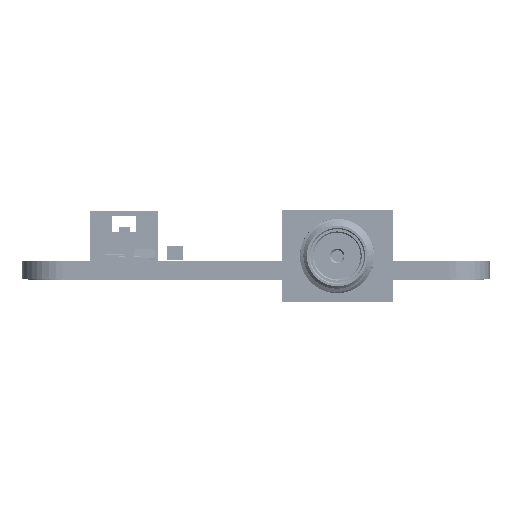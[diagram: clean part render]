
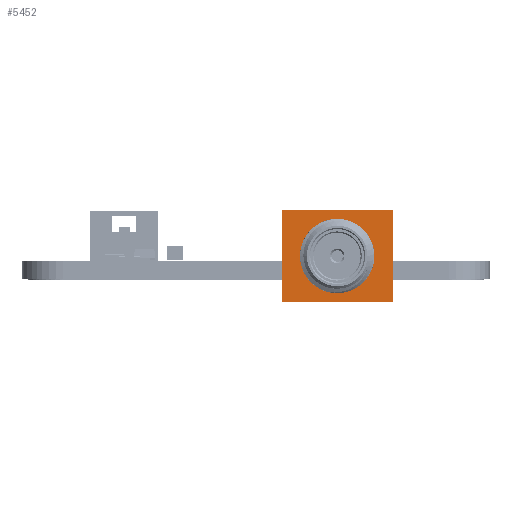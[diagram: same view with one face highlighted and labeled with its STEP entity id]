
A CAD part, left-side view. The second image highlights one B-rep face of the part: STEP entity #5452.
In plain terms, the highlighted planar face has unit normal (-1, 0, 0) as drawn and (1, 0, 0) by its records, which use the part's own axes.
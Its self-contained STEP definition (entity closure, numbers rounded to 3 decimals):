
#5228 = VERTEX_POINT('',#5229);
#5229 = CARTESIAN_POINT('',(4.19,-4.76,-3.58));
#5235 = EDGE_CURVE('',#5236,#5228,#5238,.T.);
#5236 = VERTEX_POINT('',#5237);
#5237 = CARTESIAN_POINT('',(4.19,-4.76,4.34));
#5238 = LINE('',#5239,#5240);
#5239 = CARTESIAN_POINT('',(4.19,-4.76,4.34));
#5240 = VECTOR('',#5241,1.);
#5241 = DIRECTION('',(0.,0.,-1.));
#5376 = EDGE_CURVE('',#5228,#5377,#5379,.T.);
#5377 = VERTEX_POINT('',#5378);
#5378 = CARTESIAN_POINT('',(4.19,4.76,-3.58));
#5379 = LINE('',#5380,#5381);
#5380 = CARTESIAN_POINT('',(4.19,-4.76,-3.58));
#5381 = VECTOR('',#5382,1.);
#5382 = DIRECTION('',(0.,1.,0.));
#5452 = ADVANCED_FACE('',(#5453,#5471),#5482,.T.);
#5453 = FACE_BOUND('',#5454,.T.);
#5454 = EDGE_LOOP('',(#5455,#5463,#5464,#5465));
#5455 = ORIENTED_EDGE('',*,*,#5456,.T.);
#5456 = EDGE_CURVE('',#5457,#5236,#5459,.T.);
#5457 = VERTEX_POINT('',#5458);
#5458 = CARTESIAN_POINT('',(4.19,4.76,4.34));
#5459 = LINE('',#5460,#5461);
#5460 = CARTESIAN_POINT('',(4.19,4.76,4.34));
#5461 = VECTOR('',#5462,1.);
#5462 = DIRECTION('',(0.,-1.,0.));
#5463 = ORIENTED_EDGE('',*,*,#5235,.T.);
#5464 = ORIENTED_EDGE('',*,*,#5376,.T.);
#5465 = ORIENTED_EDGE('',*,*,#5466,.T.);
#5466 = EDGE_CURVE('',#5377,#5457,#5467,.T.);
#5467 = LINE('',#5468,#5469);
#5468 = CARTESIAN_POINT('',(4.19,4.76,-3.58));
#5469 = VECTOR('',#5470,1.);
#5470 = DIRECTION('',(0.,0.,1.));
#5471 = FACE_BOUND('',#5472,.T.);
#5472 = EDGE_LOOP('',(#5473));
#5473 = ORIENTED_EDGE('',*,*,#5474,.T.);
#5474 = EDGE_CURVE('',#5475,#5475,#5477,.T.);
#5475 = VERTEX_POINT('',#5476);
#5476 = CARTESIAN_POINT('',(4.19,-2.692,0.38));
#5477 = CIRCLE('',#5478,2.692);
#5478 = AXIS2_PLACEMENT_3D('',#5479,#5480,#5481);
#5479 = CARTESIAN_POINT('',(4.19,0.,0.38));
#5480 = DIRECTION('',(-1.,0.,0.));
#5481 = DIRECTION('',(0.,-1.,0.));
#5482 = PLANE('',#5483);
#5483 = AXIS2_PLACEMENT_3D('',#5484,#5485,#5486);
#5484 = CARTESIAN_POINT('',(4.19,0.,0.38));
#5485 = DIRECTION('',(1.,0.,0.));
#5486 = DIRECTION('',(0.,-0.,1.));
